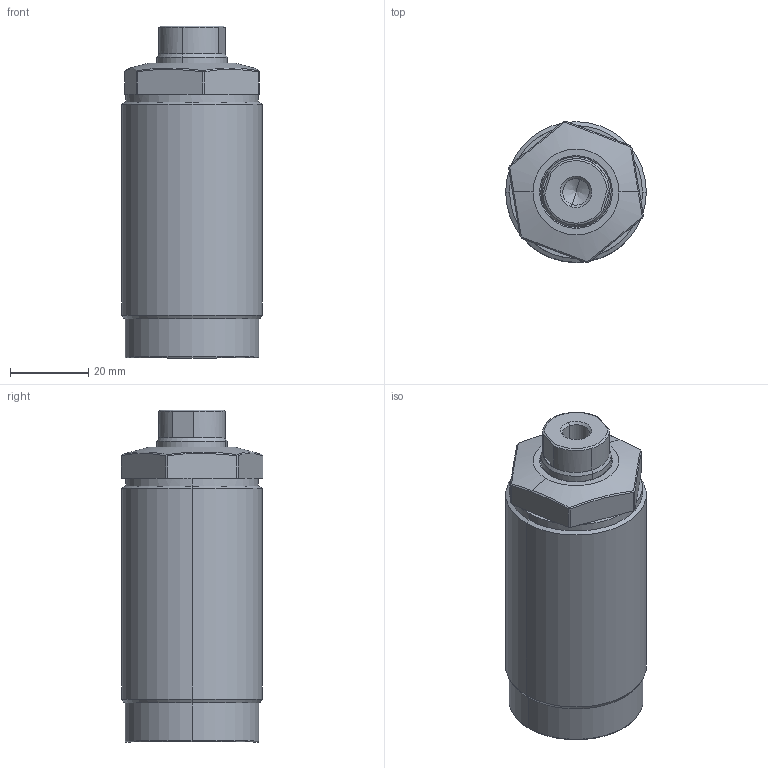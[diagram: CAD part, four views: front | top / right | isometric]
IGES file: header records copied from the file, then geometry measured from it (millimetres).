
Start section: SolidWorks IGES file using analytic representation for surfaces
Global section: file name: F:\THREADED BODY PUSHER-STD\TO3C-M364-L.IGS; native system: SolidWorks 2019; preprocessor: SolidWorks 2019; author: ADMIN; date: 200710.092103; units: millimetre
Bounding box: 36 x 36.23 x 85 mm (x, y, z)
Volume: 72546.1 mm3; surface area: 17392.9 mm2
Topology: 2 solids, 2 shells, 94 faces, 198 edges, 112 vertices
Faces by surface type: plane 45, revolution 43, bspline 6
